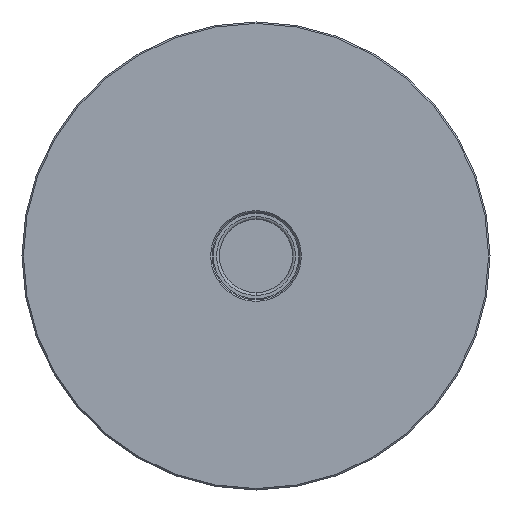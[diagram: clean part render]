
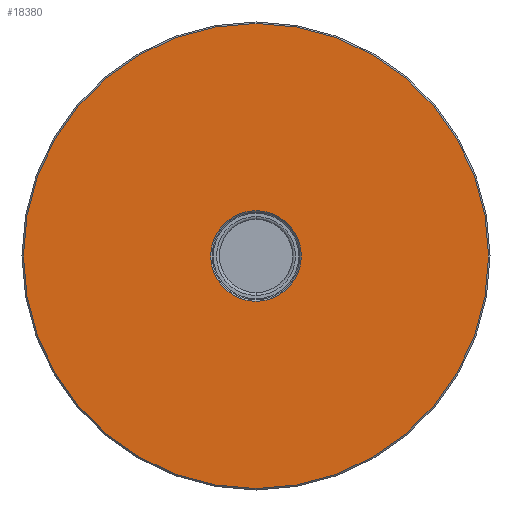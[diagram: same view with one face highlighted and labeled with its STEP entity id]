
A CAD part, front view. The second image highlights one B-rep face of the part: STEP entity #18380.
In plain terms, the highlighted planar face has unit normal (0, -1, 0).
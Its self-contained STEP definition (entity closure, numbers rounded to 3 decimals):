
#615 = EDGE_LOOP ( 'NONE', ( #14343, #1035 ) ) ;
#1035 = ORIENTED_EDGE ( 'NONE', *, *, #35373, .F. ) ;
#5379 = EDGE_CURVE ( 'NONE', #62286, #41966, #50820, .T. ) ;
#5911 = EDGE_CURVE ( 'NONE', #44853, #56009, #61625, .T. ) ;
#6400 = EDGE_LOOP ( 'NONE', ( #14327, #37082 ) ) ;
#6951 = AXIS2_PLACEMENT_3D ( 'NONE', #64469, #39021, #49404 ) ;
#11620 = DIRECTION ( 'NONE',  ( 0., -1., 0. ) ) ;
#14327 = ORIENTED_EDGE ( 'NONE', *, *, #20236, .T. ) ;
#14343 = ORIENTED_EDGE ( 'NONE', *, *, #5911, .F. ) ;
#15432 = DIRECTION ( 'NONE',  ( 0., 1., 0. ) ) ;
#18380 = ADVANCED_FACE ( 'NONE', ( #55030, #45608 ), #28930, .F. ) ;
#19917 = DIRECTION ( 'NONE',  ( 0., 0., -1. ) ) ;
#20236 = EDGE_CURVE ( 'NONE', #41966, #62286, #51148, .T. ) ;
#21481 = DIRECTION ( 'NONE',  ( 1., 0., 0. ) ) ;
#25723 = CARTESIAN_POINT ( 'NONE',  ( 64.611, -84.625, 225.114 ) ) ;
#26345 = AXIS2_PLACEMENT_3D ( 'NONE', #58513, #11620, #47795 ) ;
#28678 = CARTESIAN_POINT ( 'NONE',  ( 64.611, -84.625, 145.614 ) ) ;
#28930 = PLANE ( 'NONE',  #36085 ) ;
#32482 = DIRECTION ( 'NONE',  ( 0., -1., 0. ) ) ;
#35373 = EDGE_CURVE ( 'NONE', #56009, #44853, #65651, .T. ) ;
#36085 = AXIS2_PLACEMENT_3D ( 'NONE', #62013, #15432, #21481 ) ;
#37082 = ORIENTED_EDGE ( 'NONE', *, *, #5379, .T. ) ;
#39021 = DIRECTION ( 'NONE',  ( 0., -1., 0. ) ) ;
#41966 = VERTEX_POINT ( 'NONE', #25723 ) ;
#43496 = CARTESIAN_POINT ( 'NONE',  ( 64.611, -84.625, 161.114 ) ) ;
#44853 = VERTEX_POINT ( 'NONE', #54504 ) ;
#45608 = FACE_OUTER_BOUND ( 'NONE', #6400, .T. ) ;
#46576 = CARTESIAN_POINT ( 'NONE',  ( 64.611, -84.625, 145.614 ) ) ;
#47795 = DIRECTION ( 'NONE',  ( 0., 0., -1. ) ) ;
#49404 = DIRECTION ( 'NONE',  ( 0., 0., -1. ) ) ;
#49670 = AXIS2_PLACEMENT_3D ( 'NONE', #28678, #65752, #19917 ) ;
#50820 = CIRCLE ( 'NONE', #6951, 79.5 ) ;
#51148 = CIRCLE ( 'NONE', #55476, 79.5 ) ;
#52931 = DIRECTION ( 'NONE',  ( 0., 0., -1. ) ) ;
#54504 = CARTESIAN_POINT ( 'NONE',  ( 64.611, -84.625, 130.114 ) ) ;
#55030 = FACE_BOUND ( 'NONE', #615, .T. ) ;
#55476 = AXIS2_PLACEMENT_3D ( 'NONE', #46576, #32482, #52931 ) ;
#56009 = VERTEX_POINT ( 'NONE', #43496 ) ;
#58513 = CARTESIAN_POINT ( 'NONE',  ( 64.611, -84.625, 145.614 ) ) ;
#61625 = CIRCLE ( 'NONE', #26345, 15.5 ) ;
#62013 = CARTESIAN_POINT ( 'NONE',  ( 49.111, -84.625, 145.614 ) ) ;
#62286 = VERTEX_POINT ( 'NONE', #64675 ) ;
#64469 = CARTESIAN_POINT ( 'NONE',  ( 64.611, -84.625, 145.614 ) ) ;
#64675 = CARTESIAN_POINT ( 'NONE',  ( 64.611, -84.625, 66.114 ) ) ;
#65651 = CIRCLE ( 'NONE', #49670, 15.5 ) ;
#65752 = DIRECTION ( 'NONE',  ( 0., -1., 0. ) ) ;
